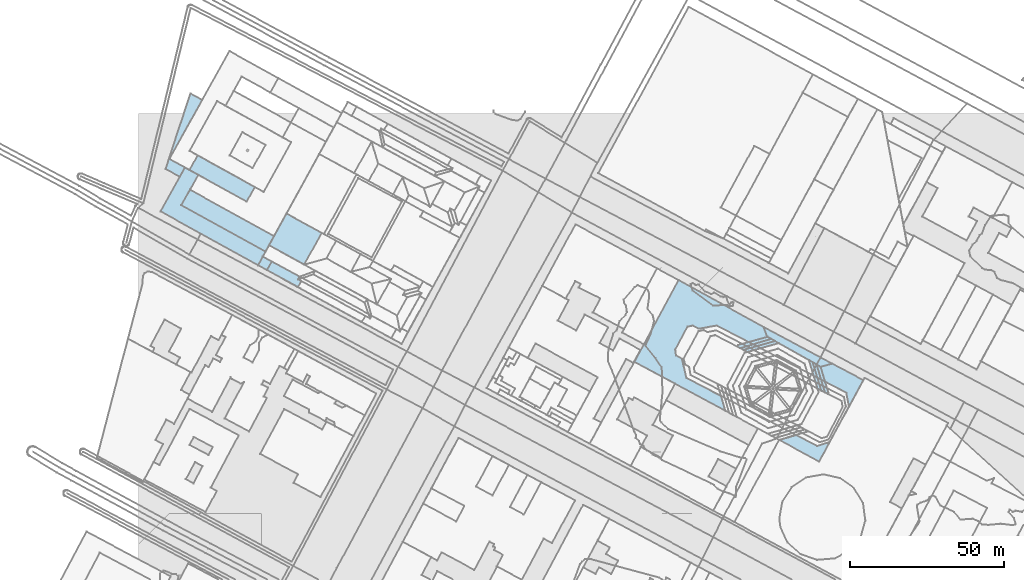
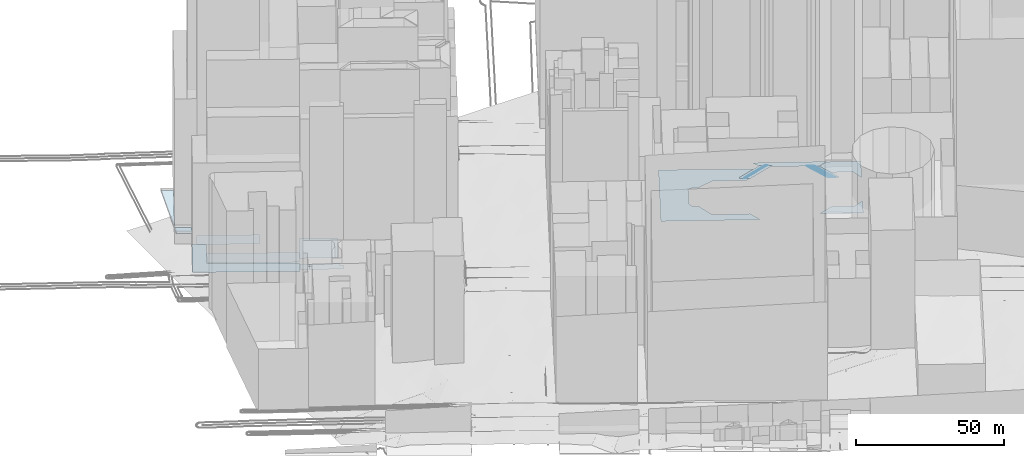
# Not in any storey, part 9 of 76: 17 footings.
"""IFC2X3 model written with IfcOpenShell, lengths in metres."""

from ifc_helpers import new_model, si_unit, frame, origin_with_axes, place, context, subcontext, project, faceted_brep, element, save


model = new_model("IFC2X3")

# Units and contexts
model_context = context("Model", 3, precision=1e-05, world=origin_with_axes())
body_context = subcontext(model_context, "Body", "Model", "MODEL_VIEW")
ifc_project = project(units=[si_unit("AREAUNIT", "SQUARE_METRE"), si_unit("LENGTHUNIT", "METRE")], contexts=[model_context])

# Footings
footing_1_placement = place(None, frame((161.19127827, 298.8014028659, 19.4608547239), z_axis=(0.0, 0.0, 1.0), x_axis=(1.0, 0.0, 0.0)))
element("IfcFooting", 1, at=footing_1_placement, Name="Sol 0", PredefinedType="STRIP_FOOTING", context=body_context, shape_type="Brep", body=[
    faceted_brep([(28.2733478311, -11.1621604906, 0.0), (29.637602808, -15.9646779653, 0.0), (0.0, 0.0, 0.0), (13.5836021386, 2.0563807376, 0.0), (15.5294506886, 0.9576732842, 0.0), (16.9696826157, -5.2983587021, 0.0), (26.7655958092, 11.7908792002, 0.0), (20.8772332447, 10.7454208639, 0.0), (18.9830601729, 11.7559095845, 0.0), (43.2518253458, 8.1411963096, 0.0), (37.1350091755, 6.4158307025, 0.0), (14.3795340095, 26.5350073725, 0.0), (42.0671637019, 11.2915635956, 0.0), (13.3239184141, 4.0628703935, 0.0), (17.2729201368, 11.4584719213, 0.0)], [[[0, 1, 2]], [[3, 4, 5]], [[6, 7, 8]], [[9, 10, 6]], [[11, 12, 9]], [[5, 0, 2]], [[11, 9, 6]], [[3, 5, 2]], [[11, 6, 8]], [[13, 3, 2]], [[11, 8, 14]], [[13, 2, 11]], [[11, 14, 13]]]),
])
footing_2_placement = place(None, frame((203.2584419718, 310.0929664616, 21.9404542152), z_axis=(0.0, 0.0, 1.0), x_axis=(1.0, 0.0, 0.0)))
element("IfcFooting", 2, at=footing_2_placement, Name="Sol 0", PredefinedType="STRIP_FOOTING", context=body_context, shape_type="Brep", body=[
    faceted_brep([(1.1846616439, -3.1503672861, 0.0), (0.0, 0.0, 0.0), (22.221026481, -11.8985374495, 0.0), (18.5101123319, -12.9075972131, 0.0)], [[[0, 1, 2]], [[2, 3, 0]]]),
])
footing_3_placement = place(None, frame((219.2364479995, 298.6103141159, 22.0370250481), z_axis=(0.0, 0.0, 1.0), x_axis=(1.0, 0.0, 0.0)))
element("IfcFooting", 3, at=footing_3_placement, Name="Sol 0", PredefinedType="STRIP_FOOTING", context=body_context, shape_type="Brep", body=[
    faceted_brep([(2.8171290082, -9.2376195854, 0.0), (0.0, 0.0, 0.0), (1.2661175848, -0.7180229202, 0.0), (4.0061240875, -9.8566187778, 0.0)], [[[0, 1, 2]], [[2, 3, 0]]]),
])
footing_4_placement = place(None, frame((220.5025655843, 297.8922911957, 22.020281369), z_axis=(0.0, 0.0, 1.0), x_axis=(1.0, 0.0, 0.0)))
element("IfcFooting", 4, at=footing_4_placement, Name="Sol 0", PredefinedType="STRIP_FOOTING", context=body_context, shape_type="Brep", body=[
    faceted_brep([(2.7400065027, -9.1385958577, 0.0), (0.0, 0.0, 0.0), (1.2659887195, -0.7069219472, 0.0), (3.8550238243, -9.20334242, 0.0), (3.6317852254, -9.6056203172, 0.0)], [[[0, 1, 2]], [[3, 4, 0]], [[0, 2, 3]]]),
])
footing_5_placement = place(None, frame((221.7685543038, 297.1853692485, 21.8040198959), z_axis=(0.0, 0.0, 1.0), x_axis=(1.0, 0.0, 0.0)))
element("IfcFooting", 5, at=footing_5_placement, Name="Sol 0", PredefinedType="STRIP_FOOTING", context=body_context, shape_type="Brep", body=[
    faceted_brep([(1.4921694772, -4.9120468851, 0.0), (0.0, 0.0, 0.0), (3.7109141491, 1.0090597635, 0.0), (13.843917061, -4.3575852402, 0.0), (9.2151276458, -12.8158404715, 0.0), (8.354244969, -8.4737691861, 0.0)], [[[0, 1, 2]], [[3, 4, 5]], [[0, 2, 3]], [[3, 5, 0]]]),
])
footing_6_placement = place(None, frame((208.2008787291, 273.4352760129, 21.5056877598), z_axis=(0.0, 0.0, 1.0), x_axis=(1.0, 0.0, 0.0)))
element("IfcFooting", 6, at=footing_6_placement, Name="Sol 0", PredefinedType="STRIP_FOOTING", context=body_context, shape_type="Brep", body=[
    faceted_brep([(13.0821989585, -7.0865241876, 0.0), (0.0, 0.0, 0.0), (5.6462511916, 1.5422641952, 0.0), (12.4573086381, -1.9867536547, 0.0), (16.451848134, -0.6857371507, 0.0)], [[[0, 1, 2]], [[3, 4, 0]], [[0, 2, 3]]]),
])
footing_7_placement = place(None, frame((217.9703306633, 299.3283372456, 22.0589444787), z_axis=(0.0, 0.0, 1.0), x_axis=(1.0, 0.0, 0.0)))
element("IfcFooting", 7, at=footing_7_placement, Name="Sol 0", PredefinedType="STRIP_FOOTING", context=body_context, shape_type="Brep", body=[
    faceted_brep([(2.8432226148, -9.3039300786, 0.0), (0.0, 0.0, 0.0), (1.2661173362, -0.7180231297, 0.0), (4.0832463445, -9.9556427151, 0.0)], [[[0, 1, 2]], [[2, 3, 0]]]),
])
footing_8_placement = place(None, frame((41.7800097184, 328.5784664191, 23.4010795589), z_axis=(0.0, 0.0, 1.0), x_axis=(1.0, 0.0, 0.0)))
element("IfcFooting", 8, at=footing_8_placement, Name="Sol 0", PredefinedType="STRIP_FOOTING", context=body_context, shape_type="Brep", body=[
    faceted_brep([(10.0500953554, -5.5121834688, 0.0), (0.0, 0.0, 0.0), (1.5539020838, 2.8491104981, 0.0), (10.1390067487, -2.9909401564, 0.0), (11.1329543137, -3.534514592, 0.0), (10.6265412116, -2.085998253, 0.0)], [[[0, 1, 2]], [[3, 4, 0]], [[2, 5, 3]], [[3, 0, 2]]]),
])
footing_9_placement = place(None, frame((194.6888328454, 303.6983377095, 22.4164949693), z_axis=(0.0, 0.0, 1.0), x_axis=(1.0, 0.0, 0.0)))
element("IfcFooting", 9, at=footing_9_placement, Name="Sol 0", PredefinedType="STRIP_FOOTING", context=body_context, shape_type="Brep", body=[
    faceted_brep([(0.8833348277, -0.4671259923, 0.0), (0.0, 0.0, 0.0), (0.3055768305, 0.5808705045, 0.0), (9.7542707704, 3.244261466, 0.0), (10.9779261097, 2.547946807, 0.0)], [[[0, 1, 2]], [[3, 4, 0]], [[0, 2, 3]]]),
])
footing_10_placement = place(None, frame((195.5721676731, 303.2312117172, 22.3534216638), z_axis=(0.0, 0.0, 1.0), x_axis=(1.0, 0.0, 0.0)))
element("IfcFooting", 10, at=footing_10_placement, Name="Sol 0", PredefinedType="STRIP_FOOTING", context=body_context, shape_type="Brep", body=[
    faceted_brep([(1.0701818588, -0.5648735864, 0.0), (0.0, 0.0, 0.0), (10.094591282, 3.0150727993, 0.0), (11.3265579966, 2.3299572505, 0.0)], [[[0, 1, 2]], [[2, 3, 0]]]),
])
footing_11_placement = place(None, frame((196.642349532, 302.6663381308, 22.285008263), z_axis=(0.0, 0.0, 1.0), x_axis=(1.0, 0.0, 0.0)))
element("IfcFooting", 11, at=footing_11_placement, Name="Sol 0", PredefinedType="STRIP_FOOTING", context=body_context, shape_type="Brep", body=[
    faceted_brep([(1.290919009, -0.6733292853, 0.0), (0.0, 0.0, 0.0), (10.2563761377, 2.8948308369, 0.0), (11.4462710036, 2.1981239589, 0.0)], [[[0, 1, 2]], [[2, 3, 0]]]),
])
footing_12_placement = place(None, frame((42.4543960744, 336.6576310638, 22.8602980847), z_axis=(0.0, 0.0, 1.0), x_axis=(1.0, 0.0, 0.0)))
element("IfcFooting", 12, at=footing_12_placement, Name="Sol 0", PredefinedType="STRIP_FOOTING", context=body_context, shape_type="Brep", body=[
    faceted_brep([(11.4264184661, -6.2733628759, 0.0), (0.0, 0.0, 0.0), (5.6710397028, 10.3132053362, 0.0), (17.1228970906, 4.0290444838, 0.0)], [[[0, 1, 2]], [[2, 3, 0]]]),
])
footing_13_placement = place(None, frame((7.1766328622, 347.6946620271, 22.6847044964), z_axis=(0.0, 0.0, 1.0), x_axis=(1.0, 0.0, 0.0)))
element("IfcFooting", 13, at=footing_13_placement, Name="Sol 0", PredefinedType="STRIP_FOOTING", context=body_context, shape_type="Brep", body=[
    faceted_brep([(34.1368527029, -13.1041901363, 0.0), (31.7064559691, -17.5288908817, 0.0), (0.0, 0.0, 0.0), (7.9382167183, 14.2585789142, 0.0), (12.2796097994, 11.8553581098, 0.0), (6.7972554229, 2.0106592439, 0.0)], [[[0, 1, 2]], [[3, 4, 5]], [[5, 0, 2]], [[2, 3, 5]]]),
])
footing_14_placement = place(None, frame((16.6101084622, 361.1268202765, 22.7114009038), z_axis=(0.0, 0.0, 1.0), x_axis=(1.0, 0.0, 0.0)))
element("IfcFooting", 14, at=footing_14_placement, Name="Sol 0", PredefinedType="STRIP_FOOTING", context=body_context, shape_type="Brep", body=[
    faceted_brep([(18.5802692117, -10.2649021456, 0.0), (0.0, 0.0, 0.0), (2.6544189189, 4.7603606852, 0.0), (21.23480915, -5.5156355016, 0.0)], [[[0, 1, 2]], [[2, 3, 0]]]),
])
footing_15_placement = place(None, frame((13.9738882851, 349.705321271, 22.9265770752), z_axis=(0.0, 0.0, 1.0), x_axis=(1.0, 0.0, 0.0)))
element("IfcFooting", 15, at=footing_15_placement, Name="Sol 0", PredefinedType="STRIP_FOOTING", context=body_context, shape_type="Brep", body=[
    faceted_brep([(27.33959728, -15.1148493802, 0.0), (0.0, 0.0, 0.0), (2.7949453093, 5.0173419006, 0.0), (30.1006408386, -10.0867881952, 0.0)], [[[0, 1, 2]], [[2, 3, 0]]]),
])
footing_16_placement = place(None, frame((8.8487001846, 361.4586486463, 29.7839697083), z_axis=(0.0, 0.0, 1.0), x_axis=(1.0, 0.0, 0.0)))
element("IfcFooting", 16, at=footing_16_placement, Name="Sol 0", PredefinedType="STRIP_FOOTING", context=body_context, shape_type="Brep", body=[
    faceted_brep([(6.2661493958, 0.494592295, 0.0), (4.5875730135, -2.5224926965, 0.0), (0.0, 0.0, 0.0), (8.0632962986, 24.5740246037, 0.0), (11.8949184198, 22.4535480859, 0.0), (1.2195887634, 3.2893146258, 0.0)], [[[0, 1, 2]], [[3, 4, 5]], [[5, 0, 2]], [[2, 3, 5]]]),
])
footing_17_placement = place(None, frame((38.8830888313, 330.1657711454, 23.374337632), z_axis=(0.0, 0.0, 1.0), x_axis=(1.0, 0.0, 0.0)))
element("IfcFooting", 17, at=footing_17_placement, Name="Sol 0", PredefinedType="STRIP_FOOTING", context=body_context, shape_type="Brep", body=[
    faceted_brep([(2.8969208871, -1.5873047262, 0.0), (0.0, 0.0, 0.0), (1.5541605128, 2.8269083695, 0.0), (4.4508229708, 1.2618057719, 0.0)], [[[0, 1, 2]], [[2, 3, 0]]]),
])

save(model, "model.ifc")
